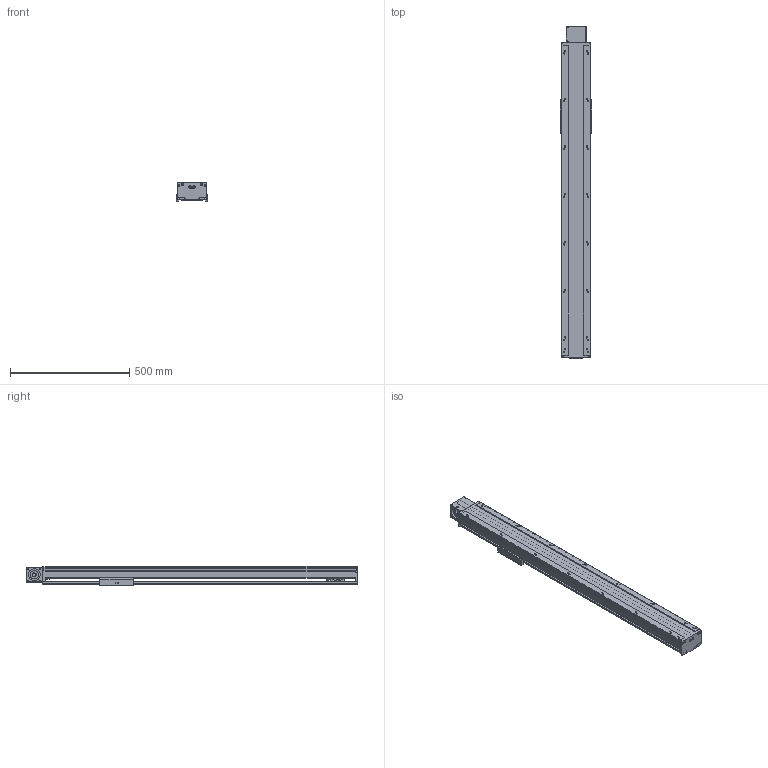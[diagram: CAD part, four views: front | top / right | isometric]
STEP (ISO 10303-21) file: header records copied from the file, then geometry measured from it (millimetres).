
FILE_DESCRIPTION(/* description */ (''),/* implementation_level */ '2;1');
FILE_NAME(/* name */ 'TKB120-FL-1000_asm1_stp.stp',/* time_stamp */ '2016-06-28T15:24:10+08:00',/* author */ (''),/* organization */ (''),/* preprocessor_version */ 'ST-DEVELOPER v15',/* originating_system */ 'SIEMENS PLM Software NX 8.5',/* authorisation */ '');
FILE_SCHEMA (('AUTOMOTIVE_DESIGN { 1 0 10303 214 3 1 1 1 }'));
Length unit declared in the file: millimetre
Products named in the file (3): 200-2; 200-1; TKB120-FL-1000_asm1_stp
Assembly tree (2 placements, depth 2):
  TKB120-FL-1000_asm1_stp
    200-1
    200-2
Bounding box: 134 x 1391 x 80 mm (x, y, z)
Volume: 3624882.5 mm3; surface area: 1453564.5 mm2
Topology: 2 solids, 3 shells, 800 faces, 2297 edges, 1503 vertices
Faces by surface type: cylinder 393, plane 365, cone 42
Full cylindrical faces by diameter (mm): 2.5 x4, 3.3 x20, 4.2 x4, 4.5 x24, 5 x26, 5.5 x16, 6.6 x6, 6.8 x4, 7.5 x4, 8 x12, 9 x6, 9.75 x32, 10.5 x4, 11 x2, 12 x4, 14 x2, 17 x2, 35 x2, 40 x3, 50 x2, 52 x1
Entity records: 26015 total; most frequent: CARTESIAN_POINT 5553, DIRECTION 4306, ORIENTED_EDGE 3946, EDGE_CURVE 1973, AXIS2_PLACEMENT_3D 1636, VERTEX_POINT 1443, EDGE_LOOP 1198, LINE 1034
